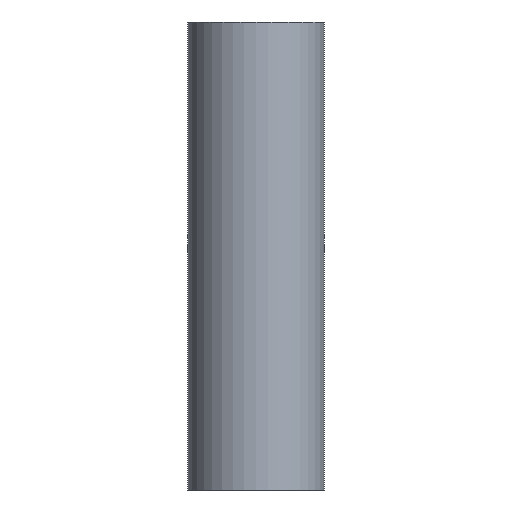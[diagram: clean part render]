
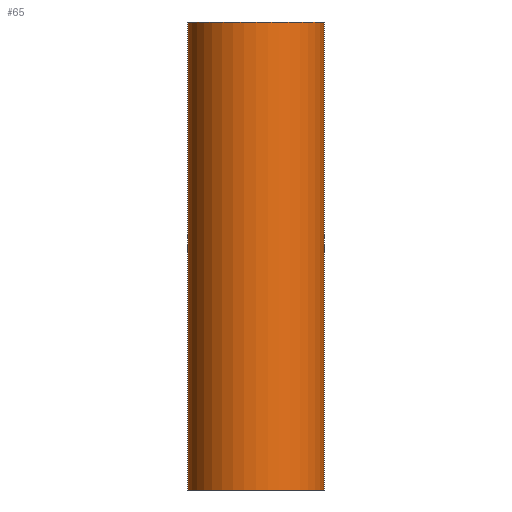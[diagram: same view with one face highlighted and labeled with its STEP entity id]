
A CAD part, front view. The second image highlights one B-rep face of the part: STEP entity #65.
In plain terms, the highlighted cylindrical face has radius 8.75 mm (diameter 17.5 mm), a partial arc.
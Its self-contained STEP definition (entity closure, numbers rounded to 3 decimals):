
#6 = VERTEX_POINT ( 'NONE', #8 ) ;
#8 = CARTESIAN_POINT ( 'NONE',  ( 8.75, 0., 60. ) ) ;
#21 = VECTOR ( 'NONE', #98, 1000. ) ;
#29 = VERTEX_POINT ( 'NONE', #204 ) ;
#37 = EDGE_CURVE ( 'NONE', #29, #177, #84, .T. ) ;
#45 = CARTESIAN_POINT ( 'NONE',  ( -8.75, 0., 60. ) ) ;
#53 = EDGE_CURVE ( 'NONE', #226, #6, #116, .T. ) ;
#54 = CYLINDRICAL_SURFACE ( 'NONE', #300, 8.75 ) ;
#58 = DIRECTION ( 'NONE',  ( 1., 0., 0. ) ) ;
#61 = DIRECTION ( 'NONE',  ( 0., 0., 1. ) ) ;
#65 = ADVANCED_FACE ( 'NONE', ( #269 ), #54, .T. ) ;
#84 = CIRCLE ( 'NONE', #198, 8.75 ) ;
#86 = CARTESIAN_POINT ( 'NONE',  ( 0., 0., 60. ) ) ;
#87 = LINE ( 'NONE', #171, #146 ) ;
#98 = DIRECTION ( 'NONE',  ( 0., 0., -1. ) ) ;
#116 = CIRCLE ( 'NONE', #228, 8.75 ) ;
#146 = VECTOR ( 'NONE', #208, 1000. ) ;
#171 = CARTESIAN_POINT ( 'NONE',  ( 8.75, 0., 60. ) ) ;
#176 = ORIENTED_EDGE ( 'NONE', *, *, #306, .F. ) ;
#177 = VERTEX_POINT ( 'NONE', #288 ) ;
#182 = ORIENTED_EDGE ( 'NONE', *, *, #37, .T. ) ;
#195 = ORIENTED_EDGE ( 'NONE', *, *, #53, .F. ) ;
#198 = AXIS2_PLACEMENT_3D ( 'NONE', #222, #61, #203 ) ;
#203 = DIRECTION ( 'NONE',  ( 1., 0., 0. ) ) ;
#204 = CARTESIAN_POINT ( 'NONE',  ( -8.75, 0., 0. ) ) ;
#205 = DIRECTION ( 'NONE',  ( -1., 0., 0. ) ) ;
#208 = DIRECTION ( 'NONE',  ( 0., 0., -1. ) ) ;
#219 = ORIENTED_EDGE ( 'NONE', *, *, #287, .T. ) ;
#220 = DIRECTION ( 'NONE',  ( 0., 0., 1. ) ) ;
#222 = CARTESIAN_POINT ( 'NONE',  ( 0., 0., 0. ) ) ;
#226 = VERTEX_POINT ( 'NONE', #45 ) ;
#228 = AXIS2_PLACEMENT_3D ( 'NONE', #86, #220, #58 ) ;
#230 = CARTESIAN_POINT ( 'NONE',  ( -8.75, 0., 60. ) ) ;
#269 = FACE_OUTER_BOUND ( 'NONE', #293, .T. ) ;
#287 = EDGE_CURVE ( 'NONE', #226, #29, #295, .T. ) ;
#288 = CARTESIAN_POINT ( 'NONE',  ( 8.75, 0., 0. ) ) ;
#293 = EDGE_LOOP ( 'NONE', ( #176, #195, #219, #182 ) ) ;
#295 = LINE ( 'NONE', #230, #21 ) ;
#300 = AXIS2_PLACEMENT_3D ( 'NONE', #302, #303, #205 ) ;
#302 = CARTESIAN_POINT ( 'NONE',  ( 0., 0., 60. ) ) ;
#303 = DIRECTION ( 'NONE',  ( 0., 0., -1. ) ) ;
#306 = EDGE_CURVE ( 'NONE', #6, #177, #87, .T. ) ;
